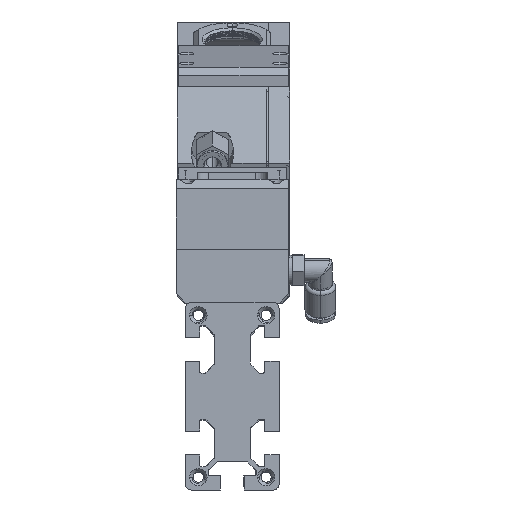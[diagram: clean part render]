
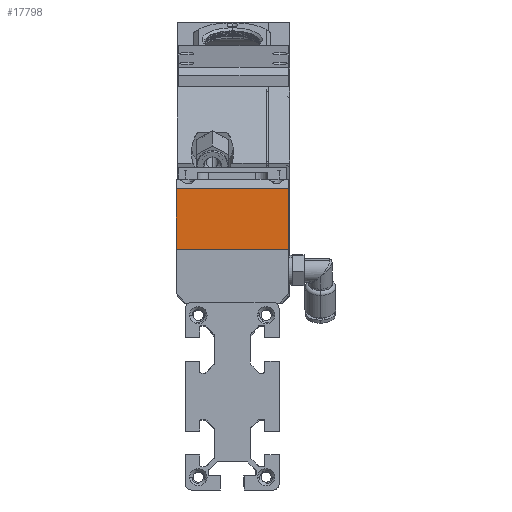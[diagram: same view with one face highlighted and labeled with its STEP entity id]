
A CAD part, front view. The second image highlights one B-rep face of the part: STEP entity #17798.
In plain terms, the highlighted planar face has unit normal (0, -1, 0).
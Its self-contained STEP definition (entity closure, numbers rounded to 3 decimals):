
#2814 = CARTESIAN_POINT ( 'NONE',  ( 0., 0., 30. ) ) ;
#2817 = DIRECTION ( 'NONE',  ( 0., 0., -1. ) ) ;
#2876 = CARTESIAN_POINT ( 'NONE',  ( -48., 0., 30. ) ) ;
#2879 = DIRECTION ( 'NONE',  ( 0., 0., -1. ) ) ;
#2884 = CARTESIAN_POINT ( 'NONE',  ( -48., 0., 26. ) ) ;
#2887 = DIRECTION ( 'NONE',  ( -1., 0., 0. ) ) ;
#2889 = CARTESIAN_POINT ( 'NONE',  ( 0., 0., 0. ) ) ;
#2892 = DIRECTION ( 'NONE',  ( 1., 0., 0. ) ) ;
#5101 = VERTEX_POINT ( 'NONE', #42280 ) ;
#5102 = VERTEX_POINT ( 'NONE', #42282 ) ;
#5105 = VERTEX_POINT ( 'NONE', #42288 ) ;
#5111 = VERTEX_POINT ( 'NONE', #42299 ) ;
#12076 = EDGE_CURVE ( 'NONE', #5101, #5102, #19162, .T. ) ;
#12088 = EDGE_CURVE ( 'NONE', #5111, #5105, #19184, .T. ) ;
#12090 = EDGE_CURVE ( 'NONE', #5101, #5111, #19188, .T. ) ;
#12091 = EDGE_CURVE ( 'NONE', #5105, #5102, #19190, .T. ) ;
#17798 = ADVANCED_FACE ( 'NONE', ( #46237 ), #29358, .F. ) ;
#19162 = LINE ( 'NONE', #2814, #19165 ) ;
#19165 = VECTOR ( 'NONE', #2817, 1000. ) ;
#19184 = LINE ( 'NONE', #2876, #19187 ) ;
#19187 = VECTOR ( 'NONE', #2879, 1000. ) ;
#19188 = LINE ( 'NONE', #2884, #19191 ) ;
#19190 = LINE ( 'NONE', #2889, #19193 ) ;
#19191 = VECTOR ( 'NONE', #2887, 1000. ) ;
#19193 = VECTOR ( 'NONE', #2892, 1000. ) ;
#29344 = CARTESIAN_POINT ( 'NONE',  ( 0., 0., 30. ) ) ;
#29358 = PLANE ( 'NONE',  #41014 ) ;
#29362 = DIRECTION ( 'NONE',  ( 0., 1., 0. ) ) ;
#29364 = DIRECTION ( 'NONE',  ( -1., 0., 0. ) ) ;
#41014 = AXIS2_PLACEMENT_3D ( 'NONE', #29344, #29362, #29364 ) ;
#41886 = ORIENTED_EDGE ( 'NONE', *, *, #12076, .F. ) ;
#41889 = ORIENTED_EDGE ( 'NONE', *, *, #12090, .T. ) ;
#41891 = ORIENTED_EDGE ( 'NONE', *, *, #12088, .T. ) ;
#41893 = ORIENTED_EDGE ( 'NONE', *, *, #12091, .T. ) ;
#42280 = CARTESIAN_POINT ( 'NONE',  ( 0., 0., 26. ) ) ;
#42282 = CARTESIAN_POINT ( 'NONE',  ( 0., 0., 0. ) ) ;
#42288 = CARTESIAN_POINT ( 'NONE',  ( -48., 0., 0. ) ) ;
#42299 = CARTESIAN_POINT ( 'NONE',  ( -48., 0., 26. ) ) ;
#45490 = EDGE_LOOP ( 'NONE', ( #41886, #41889, #41891, #41893 ) ) ;
#46237 = FACE_OUTER_BOUND ( 'NONE', #45490, .T. ) ;
